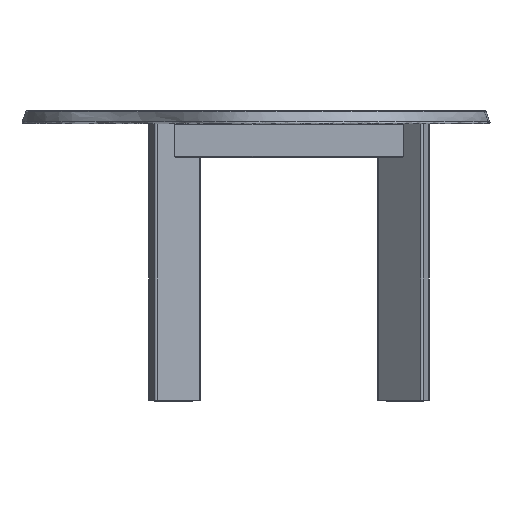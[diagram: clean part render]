
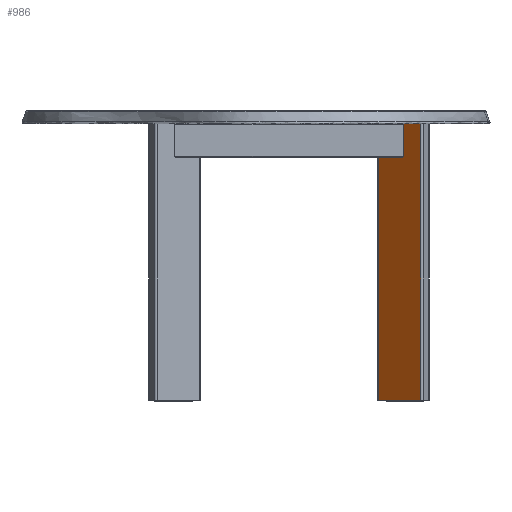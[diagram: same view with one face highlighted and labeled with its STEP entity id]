
A CAD part, left-side view. The second image highlights one B-rep face of the part: STEP entity #986.
In plain terms, the highlighted planar face has unit normal (-0.707, 0.707, 0).
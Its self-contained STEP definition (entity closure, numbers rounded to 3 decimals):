
#986=ADVANCED_FACE('',(#3242),#36632,.T.);
#3242=FACE_OUTER_BOUND('',#5541,.T.);
#5541=EDGE_LOOP('',(#10876,#10877,#10878,#10879,#10880,#10881));
#10876=ORIENTED_EDGE('',*,*,#20962,.F.);
#10877=ORIENTED_EDGE('',*,*,#20967,.T.);
#10878=ORIENTED_EDGE('',*,*,#20947,.T.);
#10879=ORIENTED_EDGE('',*,*,#20946,.F.);
#10880=ORIENTED_EDGE('',*,*,#20968,.F.);
#10881=ORIENTED_EDGE('',*,*,#20961,.F.);
#20946=EDGE_CURVE('',#32243,#32244,#30123,.T.);
#20947=EDGE_CURVE('',#32242,#32244,#30124,.T.);
#20961=EDGE_CURVE('',#32255,#32256,#26539,.T.);
#20962=EDGE_CURVE('',#32254,#32255,#30138,.T.);
#20967=EDGE_CURVE('',#32254,#32242,#30142,.T.);
#20968=EDGE_CURVE('',#32256,#32243,#30143,.T.);
#26539=B_SPLINE_CURVE_WITH_KNOTS('',1,(#70162,#70163),.UNSPECIFIED.,.F.,
 .F.,(2,2),(-85.,-7.162),.UNSPECIFIED.);
#30123=(
BOUNDED_CURVE()
B_SPLINE_CURVE(1,(#70109,#70110),.UNSPECIFIED.,.F.,.F.)
B_SPLINE_CURVE_WITH_KNOTS((2,2),(0.,698.),.UNSPECIFIED.)
CURVE()
GEOMETRIC_REPRESENTATION_ITEM()
RATIONAL_B_SPLINE_CURVE((1.,1.))
REPRESENTATION_ITEM('')
);
#30124=(
BOUNDED_CURVE()
B_SPLINE_CURVE(2,(#70111,#70112,#70113,#70114,#70115,#70116,#70117),
 .UNSPECIFIED.,.F.,.F.)
B_SPLINE_CURVE_WITH_KNOTS((3,2,2,3),(212.741,238.661,
337.527,363.447),.UNSPECIFIED.)
CURVE()
GEOMETRIC_REPRESENTATION_ITEM()
RATIONAL_B_SPLINE_CURVE((1.,1.,1.,1.,1.,1.,1.))
REPRESENTATION_ITEM('')
);
#30138=(
BOUNDED_CURVE()
B_SPLINE_CURVE(2,(#70164,#70165,#70166,#70167,#70168),.UNSPECIFIED.,.F.,
 .F.)
B_SPLINE_CURVE_WITH_KNOTS((3,2,3),(212.741,238.661,266.678),
 .UNSPECIFIED.)
CURVE()
GEOMETRIC_REPRESENTATION_ITEM()
RATIONAL_B_SPLINE_CURVE((1.,1.,1.,1.,1.))
REPRESENTATION_ITEM('')
);
#30142=(
BOUNDED_CURVE()
B_SPLINE_CURVE(1,(#70177,#70178),.UNSPECIFIED.,.F.,.F.)
B_SPLINE_CURVE_WITH_KNOTS((2,2),(85.,698.),.UNSPECIFIED.)
CURVE()
GEOMETRIC_REPRESENTATION_ITEM()
RATIONAL_B_SPLINE_CURVE((1.,1.))
REPRESENTATION_ITEM('')
);
#30143=(
BOUNDED_CURVE()
B_SPLINE_CURVE(2,(#70179,#70180,#70181,#70182,#70183),.UNSPECIFIED.,.F.,
 .F.)
B_SPLINE_CURVE_WITH_KNOTS((3,2,3),(266.678,337.527,363.447),
 .UNSPECIFIED.)
CURVE()
GEOMETRIC_REPRESENTATION_ITEM()
RATIONAL_B_SPLINE_CURVE((1.,1.,1.,1.,1.))
REPRESENTATION_ITEM('')
);
#32242=VERTEX_POINT('',#69949);
#32243=VERTEX_POINT('',#69950);
#32244=VERTEX_POINT('',#69951);
#32254=VERTEX_POINT('',#69961);
#32255=VERTEX_POINT('',#69962);
#32256=VERTEX_POINT('',#69963);
#36632=PLANE('',#37868);
#37868=AXIS2_PLACEMENT_3D('',#68778,#39722,$);
#39722=DIRECTION('',(-0.707,0.707,0.));
#68778=CARTESIAN_POINT('',(407.694,14.43,0.));
#69949=CARTESIAN_POINT('',(407.694,14.43,-698.));
#69950=CARTESIAN_POINT('',(299.768,-93.496,0.));
#69951=CARTESIAN_POINT('',(299.768,-93.496,-698.));
#69961=CARTESIAN_POINT('',(407.694,14.43,-85.));
#69962=CARTESIAN_POINT('',(366.748,-26.516,-85.));
#69963=CARTESIAN_POINT('',(366.748,-26.516,0.));
#70109=CARTESIAN_POINT('',(299.768,-93.496,0.));
#70110=CARTESIAN_POINT('',(299.768,-93.496,-698.));
#70111=CARTESIAN_POINT('',(407.694,14.43,-698.));
#70112=CARTESIAN_POINT('',(395.736,2.472,-698.));
#70113=CARTESIAN_POINT('',(383.779,-9.486,-698.));
#70114=CARTESIAN_POINT('',(353.731,-39.533,-698.));
#70115=CARTESIAN_POINT('',(323.683,-69.581,-698.));
#70116=CARTESIAN_POINT('',(311.726,-81.538,-698.));
#70117=CARTESIAN_POINT('',(299.768,-93.496,-698.));
#70162=CARTESIAN_POINT('',(366.748,-26.516,-85.));
#70163=CARTESIAN_POINT('',(366.748,-26.516,0.));
#70164=CARTESIAN_POINT('',(407.694,14.43,-85.));
#70165=CARTESIAN_POINT('',(395.736,2.472,-85.));
#70166=CARTESIAN_POINT('',(383.779,-9.486,-85.));
#70167=CARTESIAN_POINT('',(375.263,-18.001,-85.));
#70168=CARTESIAN_POINT('',(366.748,-26.516,-85.));
#70177=CARTESIAN_POINT('',(407.694,14.43,-85.));
#70178=CARTESIAN_POINT('',(407.694,14.43,-698.));
#70179=CARTESIAN_POINT('',(366.748,-26.516,0.));
#70180=CARTESIAN_POINT('',(345.216,-48.048,0.));
#70181=CARTESIAN_POINT('',(323.683,-69.581,0.));
#70182=CARTESIAN_POINT('',(311.726,-81.538,0.));
#70183=CARTESIAN_POINT('',(299.768,-93.496,0.));
